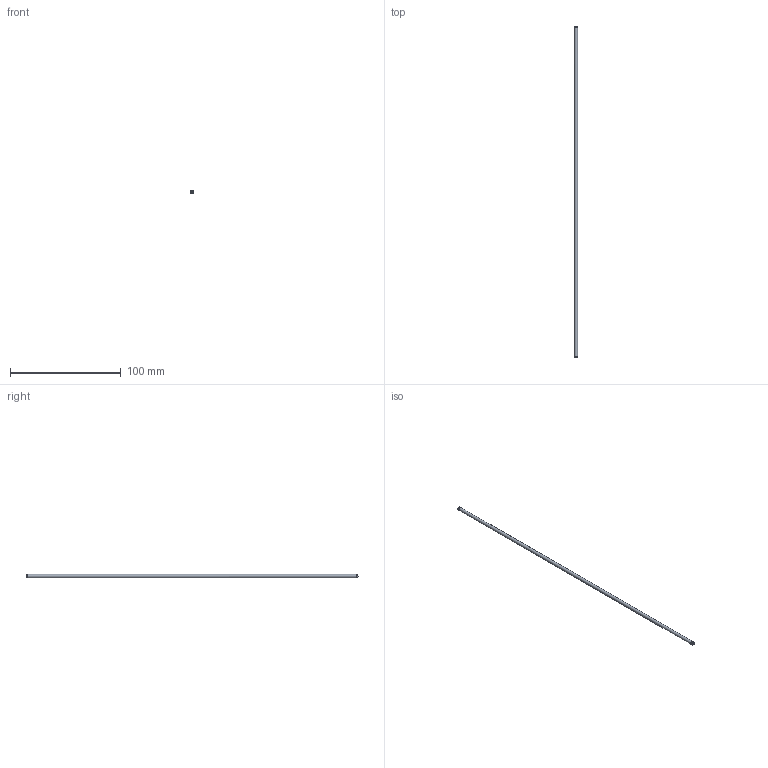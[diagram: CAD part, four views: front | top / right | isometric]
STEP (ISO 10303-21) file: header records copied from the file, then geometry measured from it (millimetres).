
FILE_DESCRIPTION(/* description */ ('- | - | -'),/* implementation_level */ '2;1');
FILE_NAME(/* name */ 'RI03300.step',/* time_stamp */ '2026-10-07T10:44:05+02:00',/* author */ ('RI'),/* organization */ ('Ø 0,4 okragly'),/* preprocessor_version */ 'ST-DEVELOPER v20.1',/* originating_system */ 'Autodesk Inventor 2026',/* authorisation */ '-');
FILE_SCHEMA (('AUTOMOTIVE_DESIGN { 1 0 10303 214 3 1 1 }'));
Length unit declared in the file: millimetre
Products named in the file (1): RI03300
Bounding box: 3 x 300 x 3 mm (x, y, z)
Volume: 973.6 mm3; surface area: 4887.5 mm2
Topology: 1 solids, 1 shells, 8 faces, 16 edges, 8 vertices
Faces by surface type: plane 4, cylinder 2, bspline 2
Full cylindrical faces by diameter (mm): 2.2 x1, 3 x1
Entity records: 836 total; most frequent: CARTESIAN_POINT 636, ORIENTED_EDGE 32, DIRECTION 32, EDGE_CURVE 16, AXIS2_PLACEMENT_3D 15, FACE_OUTER_BOUND 8, EDGE_LOOP 8, CIRCLE 8
